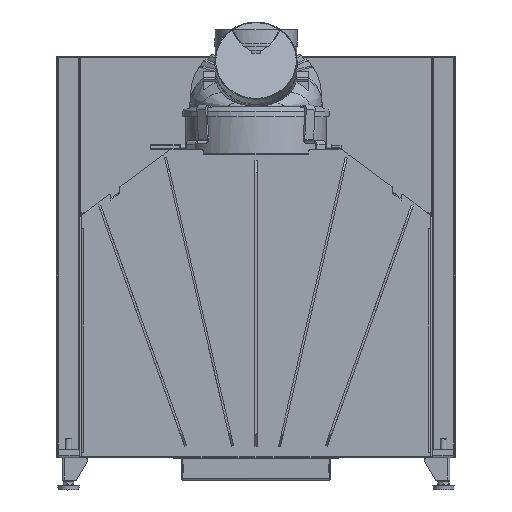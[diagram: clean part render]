
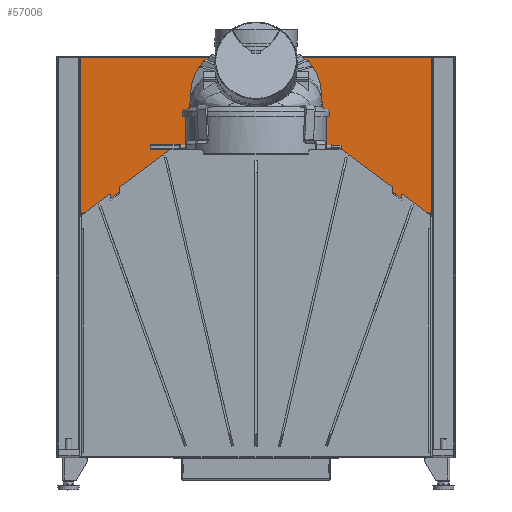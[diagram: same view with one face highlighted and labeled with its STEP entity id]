
A CAD part, front view. The second image highlights one B-rep face of the part: STEP entity #57006.
In plain terms, the highlighted planar face has unit normal (0, -1, 0).
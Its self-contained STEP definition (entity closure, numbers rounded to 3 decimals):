
#4786=FACE_OUTER_BOUND('',#7982,.T.);
#7982=EDGE_LOOP('',(#38941,#38942,#38943,#38944,#38945,#38946,#38947,#38948,
#38949,#38950));
#11651=LINE('',#83312,#17329);
#11801=LINE('',#83730,#17479);
#11803=LINE('',#83733,#17481);
#11808=LINE('',#83751,#17486);
#11873=LINE('',#83948,#17551);
#11875=LINE('',#83954,#17553);
#11882=LINE('',#84009,#17560);
#11888=LINE('',#84050,#17566);
#11902=LINE('',#84108,#17580);
#11904=LINE('',#84113,#17582);
#17329=VECTOR('',#67496,77.1);
#17479=VECTOR('',#67848,0.05);
#17481=VECTOR('',#67852,0.05);
#17486=VECTOR('',#67873,3.675);
#17551=VECTOR('',#68076,37.46);
#17553=VECTOR('',#68082,0.15);
#17560=VECTOR('',#68095,84.25);
#17566=VECTOR('',#68105,0.15);
#17580=VECTOR('',#68159,37.46);
#17582=VECTOR('',#68165,3.675);
#22804=VERTEX_POINT('',#83290);
#22811=VERTEX_POINT('',#83309);
#22812=VERTEX_POINT('',#83311);
#22831=VERTEX_POINT('',#83362);
#22984=VERTEX_POINT('',#83749);
#23005=VERTEX_POINT('',#83900);
#23006=VERTEX_POINT('',#83923);
#23008=VERTEX_POINT('',#83942);
#23010=VERTEX_POINT('',#83953);
#23014=VERTEX_POINT('',#84008);
#28534=EDGE_CURVE('',#22812,#22811,#11651,.T.);
#28744=EDGE_CURVE('',#22804,#22812,#11801,.T.);
#28746=EDGE_CURVE('',#22811,#22831,#11803,.T.);
#28755=EDGE_CURVE('',#22831,#22984,#11808,.T.);
#28840=EDGE_CURVE('',#22984,#23008,#11873,.T.);
#28843=EDGE_CURVE('',#23006,#23010,#11875,.T.);
#28853=EDGE_CURVE('',#23010,#23014,#11882,.T.);
#28861=EDGE_CURVE('',#23014,#23008,#11888,.T.);
#28881=EDGE_CURVE('',#23006,#23005,#11902,.T.);
#28883=EDGE_CURVE('',#23005,#22804,#11904,.T.);
#38941=ORIENTED_EDGE('',*,*,#28840,.T.);
#38942=ORIENTED_EDGE('',*,*,#28861,.F.);
#38943=ORIENTED_EDGE('',*,*,#28853,.F.);
#38944=ORIENTED_EDGE('',*,*,#28843,.F.);
#38945=ORIENTED_EDGE('',*,*,#28881,.T.);
#38946=ORIENTED_EDGE('',*,*,#28883,.T.);
#38947=ORIENTED_EDGE('',*,*,#28744,.T.);
#38948=ORIENTED_EDGE('',*,*,#28534,.T.);
#38949=ORIENTED_EDGE('',*,*,#28746,.T.);
#38950=ORIENTED_EDGE('',*,*,#28755,.T.);
#52564=PLANE('',#60579);
#57006=ADVANCED_FACE('',(#4786),#52564,.T.);
#60579=AXIS2_PLACEMENT_3D('',#84115,#68168,#68169);
#67496=DIRECTION('',(1.,0.,0.));
#67848=DIRECTION('',(1.,0.,0.));
#67852=DIRECTION('',(1.,0.,0.));
#67873=DIRECTION('',(1.,0.,0.));
#68076=DIRECTION('',(0.,0.,1.));
#68082=DIRECTION('',(1.,0.,0.));
#68095=DIRECTION('',(1.,0.,0.));
#68105=DIRECTION('',(1.,0.,0.));
#68159=DIRECTION('',(0.,0.,-1.));
#68165=DIRECTION('',(1.,0.,0.));
#68168=DIRECTION('center_axis',(0.,-1.,0.));
#68169=DIRECTION('ref_axis',(0.,0.,
-1.));
#83290=CARTESIAN_POINT('',(-38.6,-1.,59.115));
#83309=CARTESIAN_POINT('',(38.55,-1.,59.115));
#83311=CARTESIAN_POINT('',(-38.55,-1.,59.115));
#83312=CARTESIAN_POINT('',(0.,-1.,59.115));
#83362=CARTESIAN_POINT('',(38.6,-1.,59.115));
#83730=CARTESIAN_POINT('',(0.,-1.,59.115));
#83733=CARTESIAN_POINT('',(0.,-1.,59.115));
#83749=CARTESIAN_POINT('',(42.275,-1.,59.115));
#83751=CARTESIAN_POINT('',(0.,-1.,59.115));
#83900=CARTESIAN_POINT('',(-42.275,-1.,59.115));
#83923=CARTESIAN_POINT('',(-42.275,-1.,96.575));
#83942=CARTESIAN_POINT('',(42.275,-1.,96.575));
#83948=CARTESIAN_POINT('',(42.275,-1.,87.57));
#83953=CARTESIAN_POINT('',(-42.125,-1.,96.575));
#83954=CARTESIAN_POINT('',(0.,-1.,96.575));
#84008=CARTESIAN_POINT('',(42.125,-1.,96.575));
#84009=CARTESIAN_POINT('',(0.,-1.,96.575));
#84050=CARTESIAN_POINT('',(0.,-1.,96.575));
#84108=CARTESIAN_POINT('',(-42.275,-1.,68.841));
#84113=CARTESIAN_POINT('',(0.,-1.,59.115));
#84115=CARTESIAN_POINT('Origin',(0.,-1.,
78.566));
